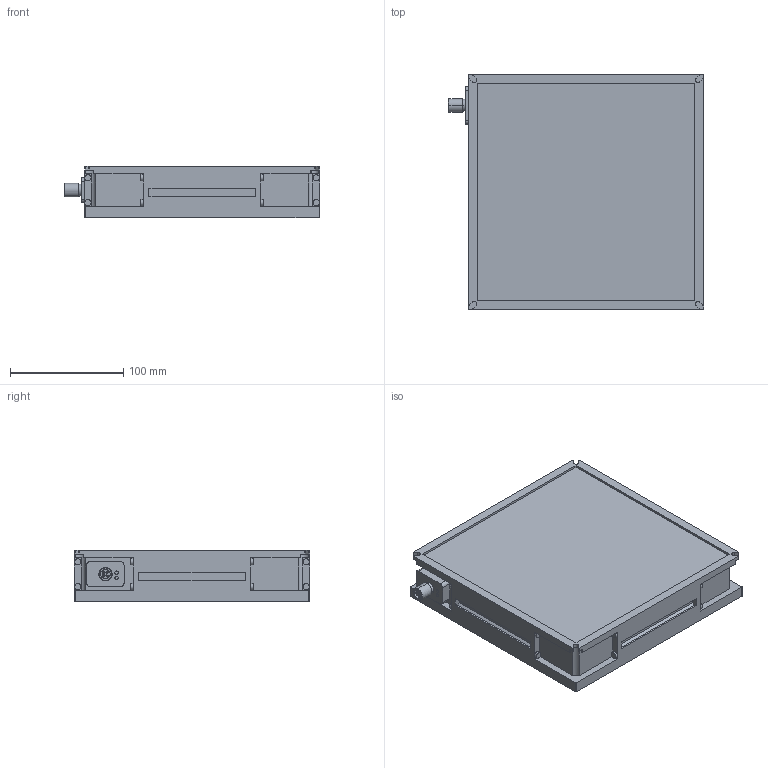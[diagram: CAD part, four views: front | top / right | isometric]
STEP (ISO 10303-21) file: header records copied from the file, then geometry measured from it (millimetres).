
FILE_DESCRIPTION (( 'STEP AP214' ), '1' );
FILE_NAME ('HPB-EC-2020-xxx-M1.STEP', '2026-06-08T15:55:31', ( '' ), ( '' ), 'SwSTEP 2.0', 'SolidWorks 2025', '' );
FILE_SCHEMA (( 'AUTOMOTIVE_DESIGN' ));
Length unit declared in the file: millimetre
Products named in the file (1): HPB-EC-2020-xxx-M1
Bounding box: 225.9 x 208 x 45.5 mm (x, y, z)
Volume: 1745595.2 mm3; surface area: 141483.9 mm2
Topology: 1 solids, 1 shells, 441 faces, 1142 edges, 758 vertices
Faces by surface type: plane 248, cylinder 103, bspline 80, cone 10
Entity records: 17426 total; most frequent: CARTESIAN_POINT 6694, ORIENTED_EDGE 2284, DIRECTION 1930, EDGE_CURVE 1142, LINE 758, VECTOR 758, VERTEX_POINT 758, AXIS2_PLACEMENT_3D 586
